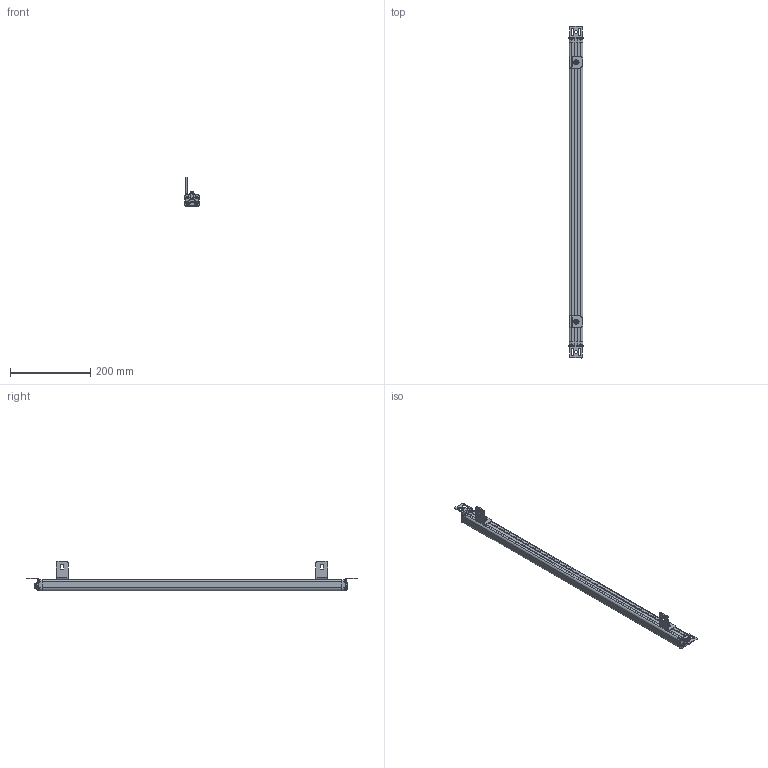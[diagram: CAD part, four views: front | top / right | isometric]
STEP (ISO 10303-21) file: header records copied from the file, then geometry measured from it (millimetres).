
FILE_DESCRIPTION((''),'2;1');
FILE_NAME('ELG-0440_ASM','2021-08-07T09:43:34',('18720616900'),(''),'CREO PARAMETRIC BY PTC INC, 2019010','CREO PARAMETRIC BY PTC INC, 2019010','');
FILE_SCHEMA(('CONFIG_CONTROL_DESIGN'));
Products named in the file (18): ELG--00; ELG--000; ELG000; M3--0001; 3000; 3--0001; ELG_30001_ASM; ST-3-12; L20001; M3-6; L10001; M6-1--00; M6-1-00; M6-8--0001; 00; L1--0001_ASM; ELG-0440_ASM
Assembly tree (34 placements, depth 3):
  ELG-0440_ASM
    ELG--00
    ELG--000
    ELG000
    ELG000
    M3--0001  x4
    ELG_30001_ASM
      3000
      3--0001  x3
    ST-3-12  x8
    L20001  x2
    M3-6  x4
    L1--0001_ASM  x2
      L10001
      M6-1--00
      M6-1-00
      M6-8--0001
      00
Bounding box: 35 x 825 x 73.4 mm (x, y, z)
Volume: 663339.9 mm3; surface area: 176184.3 mm2
Topology: 36 solids, 36 shells, 3404 faces, 9468 edges, 6167 vertices
Faces by surface type: cylinder 1928, plane 616, bspline 398, cone 353, torus 99, sphere 10
Entity records: 68753 total; most frequent: CARTESIAN_POINT 35026, ORIENTED_EDGE 7326, DIRECTION 6679, EDGE_CURVE 3663, AXIS2_PLACEMENT_3D 2530, VERTEX_POINT 2387, VECTOR 1619, LINE 1619
